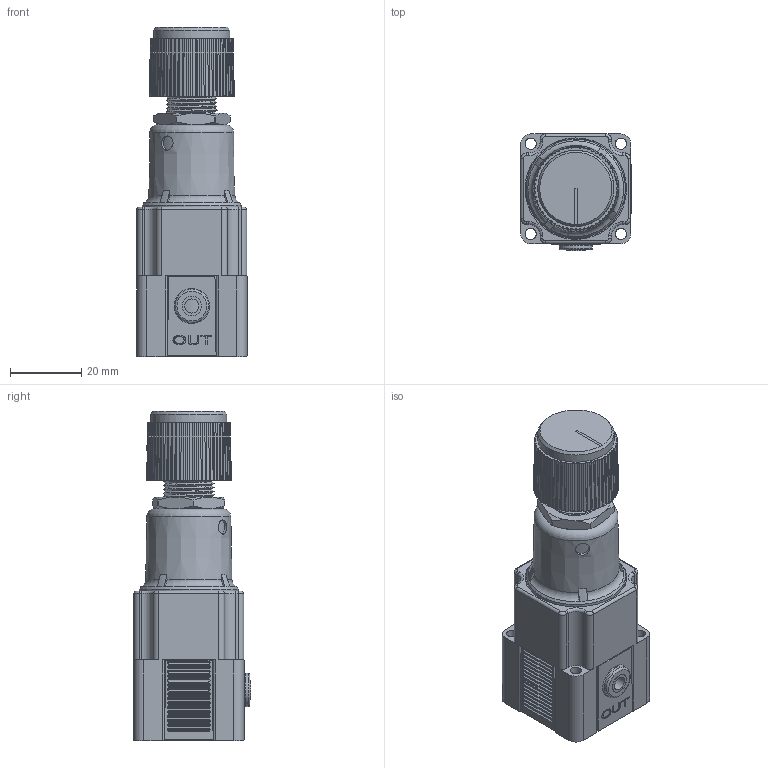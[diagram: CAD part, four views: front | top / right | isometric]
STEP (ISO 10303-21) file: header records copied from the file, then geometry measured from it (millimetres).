
FILE_DESCRIPTION(/* description */ (''),/* implementation_level */ '2;1');
FILE_NAME(/* name */ 'K:\Normteile INVENTOR\Air-Logic\Regulators\NR4000\NR 4___ 0 10-32 UNF Threads Out.igs.ipt.stp',/* time_stamp */ '2020-05-27T10:50:05+02:00',/* author */ ('Paul'),/* organization */ (''),/* preprocessor_version */ 'ST-DEVELOPER v18',/* originating_system */ 'Autodesk Inventor 2020',/* authorisation */ '');
FILE_SCHEMA (('AUTOMOTIVE_DESIGN { 1 0 10303 214 3 1 1 }'));
Length unit declared in the file: inch
Products named in the file (1): NR 4___ 0 10-32 UNF Threads Out.igs
Bounding box: 31.06 x 32.97 x 92.65 mm (x, y, z)
Volume: 54839.1 mm3; surface area: 18206.1 mm2
Topology: 1 solids, 1 shells, 919 faces, 2363 edges, 1509 vertices
Faces by surface type: plane 451, cylinder 328, cone 82, bspline 35, torus 23
Full cylindrical faces by diameter (mm): 3.175 x4, 3.962 x1, 3.988 x1, 4.039 x1, 4.064 x1, 5.486 x1, 6.248 x1, 9.169 x1, 9.398 x1, 9.652 x1, 12.903 x1, 14.288 x2, 19.406 x1, 21.476 x1, 26.264 x1, 27.94 x1, 27.991 x1, 28.575 x1
Entity records: 36697 total; most frequent: CARTESIAN_POINT 12885, DIRECTION 4965, ORIENTED_EDGE 4726, EDGE_CURVE 2363, AXIS2_PLACEMENT_3D 1906, VERTEX_POINT 1509, LINE 1153, VECTOR 1153
